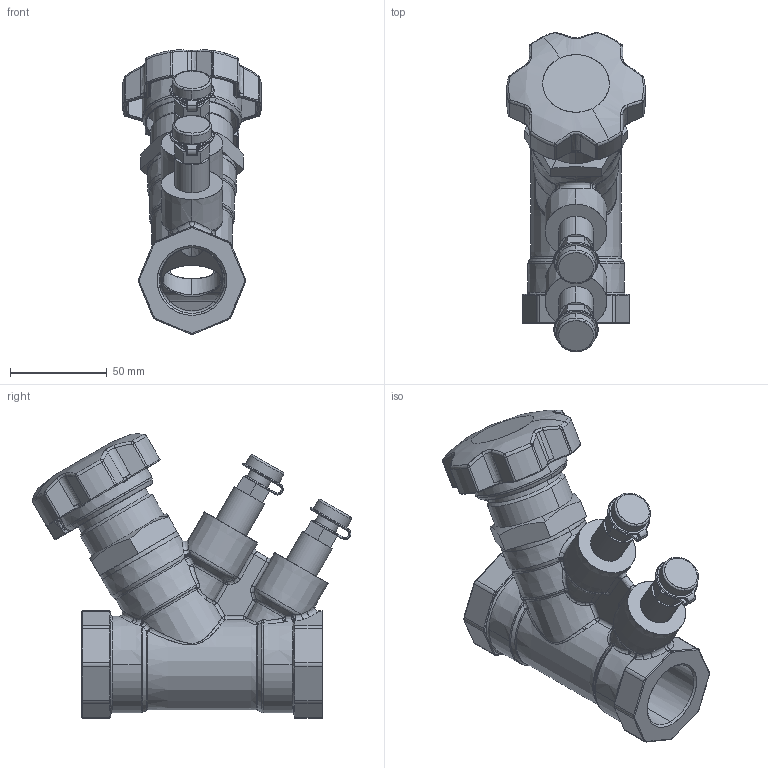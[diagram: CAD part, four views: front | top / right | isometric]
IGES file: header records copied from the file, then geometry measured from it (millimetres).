
Start section: SolidWorks IGES file using analytic representation for surfaces
Global section: file name: C:\Users\Administrator\Desktop\temp\0.IGS; native system: SolidWorks 2015; preprocessor: SolidWorks 2015; author: Administrator; date: 170404.134244; units: millimetre
Bounding box: 71.52 x 165.42 x 147.18 mm (x, y, z)
Surface area: 113270 mm2 (no closed solid volume)
Topology: 0 solids, 0 shells, 1025 faces, 10577 edges, 10506 vertices
Faces by surface type: bspline 662, revolution 363
